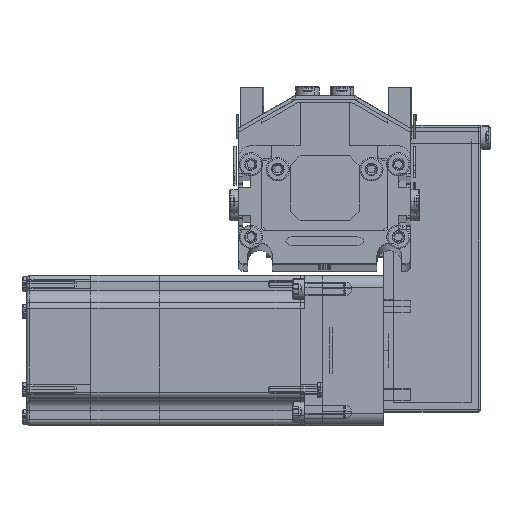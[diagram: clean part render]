
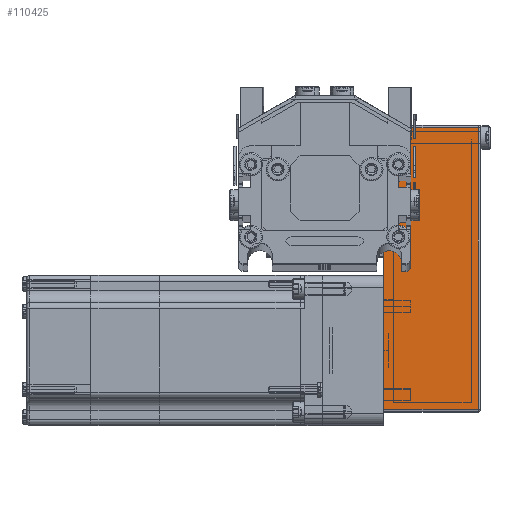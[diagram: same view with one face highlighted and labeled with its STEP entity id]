
A CAD part, top view. The second image highlights one B-rep face of the part: STEP entity #110425.
In plain terms, the highlighted planar face has unit normal (0, 0, 1) as drawn and (0, -1, 0) by its records, which use the part's own axes.
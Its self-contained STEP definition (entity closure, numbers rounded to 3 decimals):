
#24590 = VECTOR ( 'NONE', #24712, 1000. ) ;
#24643 = CARTESIAN_POINT ( 'NONE',  ( -49., -25., 39.5 ) ) ;
#24644 = LINE ( 'NONE', #24643, #24590 ) ;
#24712 = DIRECTION ( 'NONE',  ( 0., 0., -1. ) ) ;
#42669 = EDGE_CURVE ( 'NONE', #141698, #132353, #24644, .T. ) ;
#42681 = ORIENTED_EDGE ( 'NONE', *, *, #142306, .T. ) ;
#44793 = DIRECTION ( 'NONE',  ( 0., 0., 1. ) ) ;
#44794 = DIRECTION ( 'NONE',  ( 0., 1., 0. ) ) ;
#44795 = CARTESIAN_POINT ( 'NONE',  ( -50., -25., 39.5 ) ) ;
#44796 = AXIS2_PLACEMENT_3D ( 'NONE', #44795, #44794, #44793 ) ;
#44803 = PLANE ( 'NONE',  #44796 ) ;
#44804 = FACE_OUTER_BOUND ( 'NONE', #109378, .T. ) ;
#104815 = CARTESIAN_POINT ( 'NONE',  ( -49., -25., 38.5 ) ) ;
#105342 = DIRECTION ( 'NONE',  ( 0., 0., 1. ) ) ;
#105343 = VECTOR ( 'NONE', #105342, 1000. ) ;
#105344 = CARTESIAN_POINT ( 'NONE',  ( 65.5, -25., 39.5 ) ) ;
#105347 = LINE ( 'NONE', #105344, #105343 ) ;
#106216 = DIRECTION ( 'NONE',  ( -1., 0., 0. ) ) ;
#106219 = VECTOR ( 'NONE', #106216, 1000. ) ;
#106222 = CARTESIAN_POINT ( 'NONE',  ( -50., -25., 38.5 ) ) ;
#106224 = LINE ( 'NONE', #106222, #106219 ) ;
#106248 = CARTESIAN_POINT ( 'NONE',  ( 65.5, -25., 38.5 ) ) ;
#109378 = EDGE_LOOP ( 'NONE', ( #42681, #133812, #133533, #133366 ) ) ;
#110425 = ADVANCED_FACE ( 'NONE', ( #44804 ), #44803, .F. ) ;
#132339 = EDGE_CURVE ( 'NONE', #132353, #132469, #147303, .T. ) ;
#132353 = VERTEX_POINT ( 'NONE', #147337 ) ;
#132469 = VERTEX_POINT ( 'NONE', #147682 ) ;
#133366 = ORIENTED_EDGE ( 'NONE', *, *, #142294, .T. ) ;
#133533 = ORIENTED_EDGE ( 'NONE', *, *, #132339, .T. ) ;
#133812 = ORIENTED_EDGE ( 'NONE', *, *, #42669, .T. ) ;
#141698 = VERTEX_POINT ( 'NONE', #104815 ) ;
#142294 = EDGE_CURVE ( 'NONE', #132469, #142300, #105347, .T. ) ;
#142300 = VERTEX_POINT ( 'NONE', #106248 ) ;
#142306 = EDGE_CURVE ( 'NONE', #142300, #141698, #106224, .T. ) ;
#147296 = DIRECTION ( 'NONE',  ( 1., 0., 0. ) ) ;
#147301 = VECTOR ( 'NONE', #147296, 1000. ) ;
#147302 = CARTESIAN_POINT ( 'NONE',  ( -50., -25., 0. ) ) ;
#147303 = LINE ( 'NONE', #147302, #147301 ) ;
#147337 = CARTESIAN_POINT ( 'NONE',  ( -49., -25., 0. ) ) ;
#147682 = CARTESIAN_POINT ( 'NONE',  ( 65.5, -25., 0. ) ) ;
